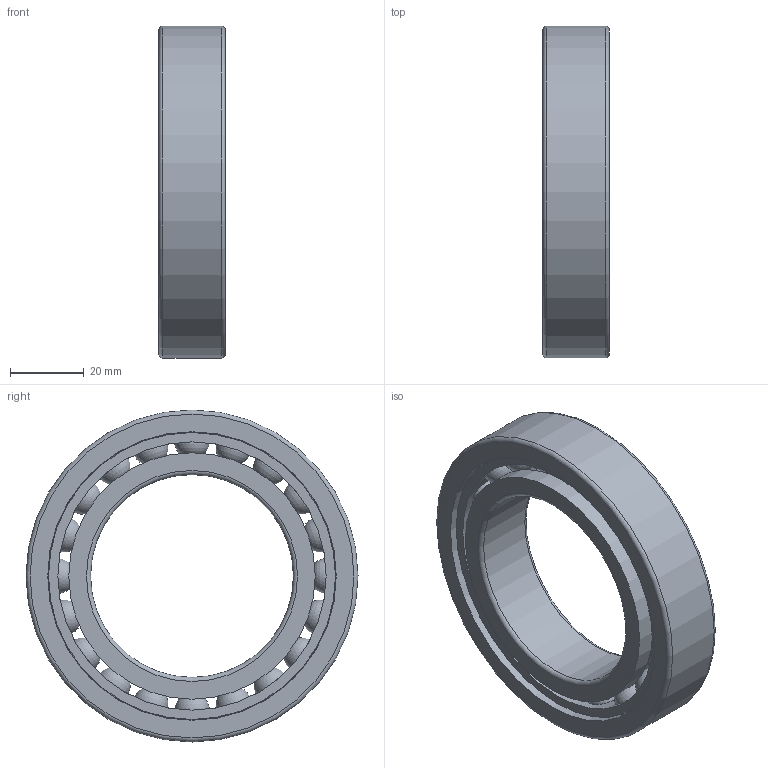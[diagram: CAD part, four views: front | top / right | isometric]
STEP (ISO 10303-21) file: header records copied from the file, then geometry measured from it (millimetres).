
FILE_DESCRIPTION(/* description */ (''),/* implementation_level */ '2;1');
FILE_NAME(/* name */ 'SM_6011_TA.step',/* time_stamp */ '2013-03-11T11:34:39+01:00',/* author */ ('Marian'),/* organization */ ('GMN'),/* preprocessor_version */ 'ST-DEVELOPER v11',/* originating_system */ 'SIEMENS UGS NX 6.0',/* authorisation */ '');
FILE_SCHEMA (('CONFIG_CONTROL_DESIGN'));
Length unit declared in the file: millimetre
Products named in the file (1): SM_6011_TA
Bounding box: 18 x 90 x 90 mm (x, y, z)
Volume: 53850.3 mm3; surface area: 33451.6 mm2
Topology: 23 solids, 23 shells, 60 faces, 158 edges, 102 vertices
Faces by surface type: cylinder 27, sphere 20, torus 6, plane 6, cone 1
Full cylindrical faces by diameter (mm): 9.725 x20, 55 x1, 66.8 x2, 72.725 x1, 77.8 x1, 78.2 x1, 90 x1
Entity records: 1978 total; most frequent: CARTESIAN_POINT 881, DIRECTION 162, FACE_BOUND 140, EDGE_LOOP 120, ORIENTED_EDGE 120, AXIS2_PLACEMENT_3D 81, VERTEX_POINT 80, EDGE_CURVE 60
